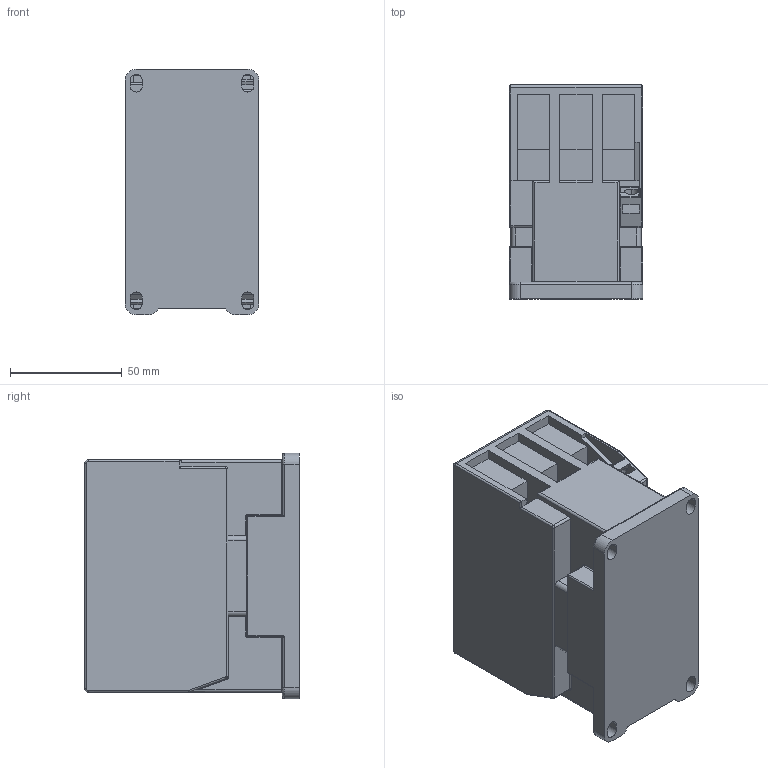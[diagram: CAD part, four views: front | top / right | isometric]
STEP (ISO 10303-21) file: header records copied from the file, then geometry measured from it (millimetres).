
FILE_DESCRIPTION (( 'STEP AP203' ), '1' );
FILE_NAME ('K3-62A00.STEP', '2013-03-11T12:37:45', ( 'edv' ), ( '' ), 'SwSTEP 2.0', 'SolidWorks 2013', '' );
FILE_SCHEMA (( 'CONFIG_CONTROL_DESIGN' ));
Length unit declared in the file: millimetre
Products named in the file (1): K3-62A00
Bounding box: 59.8 x 96 x 110 mm (x, y, z)
Volume: 509160.8 mm3; surface area: 62917.4 mm2
Topology: 1 solids, 1 shells, 516 faces, 1269 edges, 723 vertices
Faces by surface type: cylinder 234, plane 168, torus 64, sphere 39, bspline 11
Entity records: 15191 total; most frequent: CARTESIAN_POINT 3051, DIRECTION 2670, ORIENTED_EDGE 2454, EDGE_CURVE 1227, AXIS2_PLACEMENT_3D 994, VERTEX_POINT 723, LINE 682, VECTOR 682
